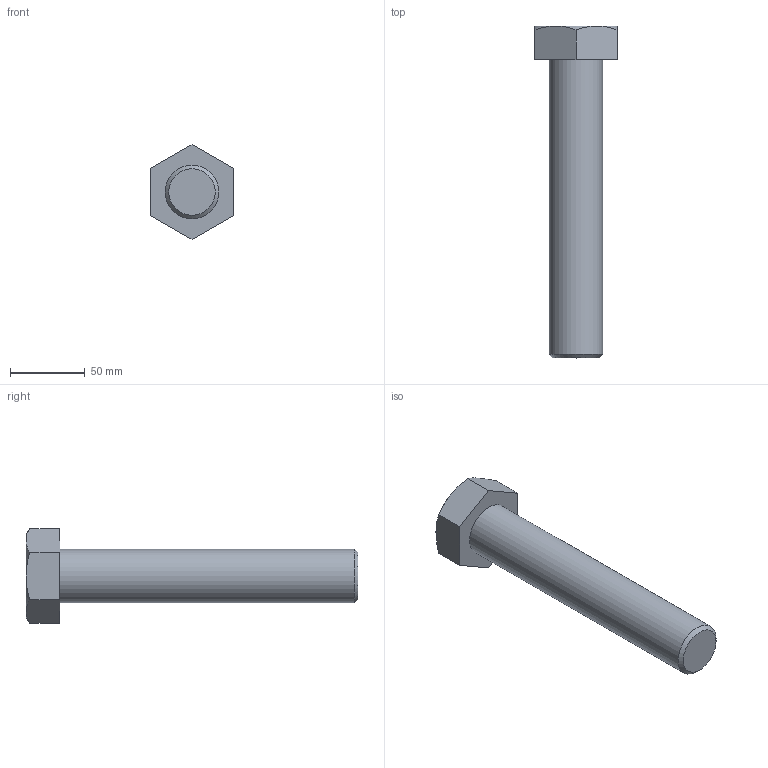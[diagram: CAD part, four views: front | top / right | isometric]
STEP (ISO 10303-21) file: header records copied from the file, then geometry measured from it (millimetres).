
FILE_DESCRIPTION(/* description */ (''),/* implementation_level */ '2;1');
FILE_NAME(/* name */ 'C:\Users\unitec\Documents\Inventor\各種小物\JIS\JIS B 1180 六角ボルト 等級C\hbc36\M36x200.stp',/* time_stamp */ '2015-02-13T14:56:39+09:00',/* author */ ('unitec'),/* organization */ (''),/* preprocessor_version */ 'ST-DEVELOPER v15.2',/* originating_system */ 'Autodesk Inventor 2014',/* authorisation */ '');
FILE_SCHEMA (('AUTOMOTIVE_DESIGN { 1 0 10303 214 3 1 1 }'));
Length unit declared in the file: millimetre
Products named in the file (1): M36x200
Bounding box: 55 x 222.5 x 63.51 mm (x, y, z)
Volume: 262014.4 mm3; surface area: 31852.8 mm2
Topology: 1 solids, 1 shells, 17 faces, 35 edges, 21 vertices
Faces by surface type: plane 9, cone 7, cylinder 1
Full cylindrical faces by diameter (mm): 36 x1
Entity records: 441 total; most frequent: CARTESIAN_POINT 96, ORIENTED_EDGE 66, DIRECTION 66, EDGE_CURVE 33, AXIS2_PLACEMENT_3D 27, VERTEX_POINT 21, EDGE_LOOP 20, ADVANCED_FACE 17
